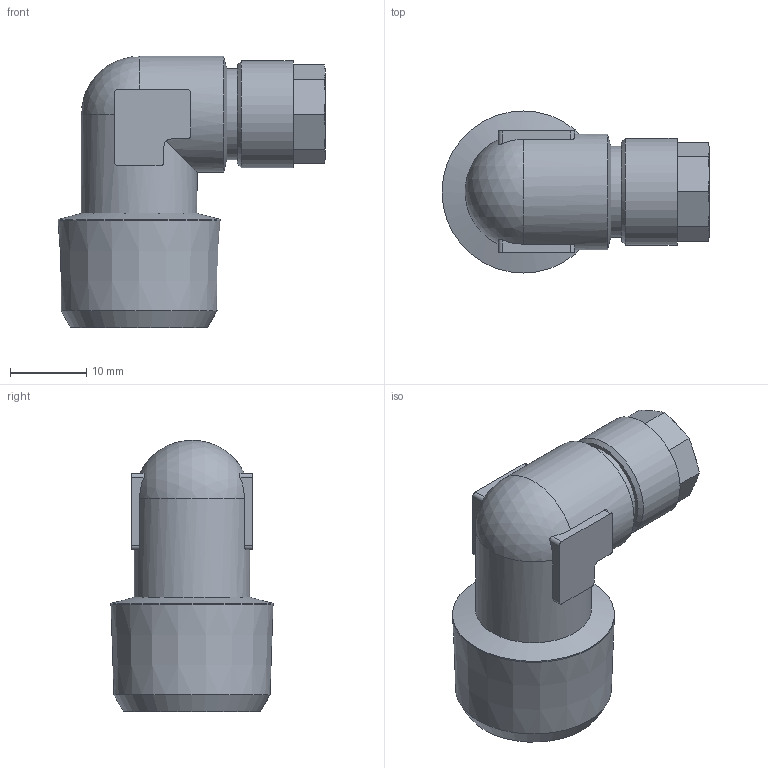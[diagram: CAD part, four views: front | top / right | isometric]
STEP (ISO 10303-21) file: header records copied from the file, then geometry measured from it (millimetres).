
FILE_DESCRIPTION(/* description */ (''),/* implementation_level */ '2;1');
FILE_NAME(/* name */ '11009_305_86_R12_18.07.17',/* time_stamp */ '2017-07-18T13:46:09+02:00',/* author */ (''),/* organization */ (''),/* preprocessor_version */ 'ST-DEVELOPER v16.5',/* originating_system */ 'HiCAD 2016 2102.2 Build 618',/* authorisation */ '');
FILE_SCHEMA (('AUTOMOTIVE_DESIGN { 1 0 10303 214 1 1 1 1 }'));
Length unit declared in the file: millimetre
Products named in the file (3): Root; 17006; R11009
Assembly tree (2 placements, depth 2):
  Root
    17006
    R11009
Bounding box: 35.13 x 21.27 x 35.59 mm (x, y, z)
Volume: 6768 mm3; surface area: 5521.8 mm2
Topology: 2 solids, 2 shells, 77 faces, 198 edges, 130 vertices
Faces by surface type: plane 30, cylinder 23, cone 21, torus 2, sphere 1
Full cylindrical faces by diameter (mm): 5 x1, 6.8 x1, 8 x1, 10.773 x1, 11 x1, 12 x1, 14 x1, 15 x1, 15.2 x2, 21.267 x1
Entity records: 5986 total; most frequent: CARTESIAN_POINT 2664, DIRECTION 378, PRESENTATION_STYLE_ASSIGNMENT 316, COLOUR_RGB 315, DRAUGHTING_PRE_DEFINED_CURVE_FONT 314, CURVE_STYLE 314, OVER_RIDING_STYLED_ITEM 314, ORIENTED_EDGE 314
